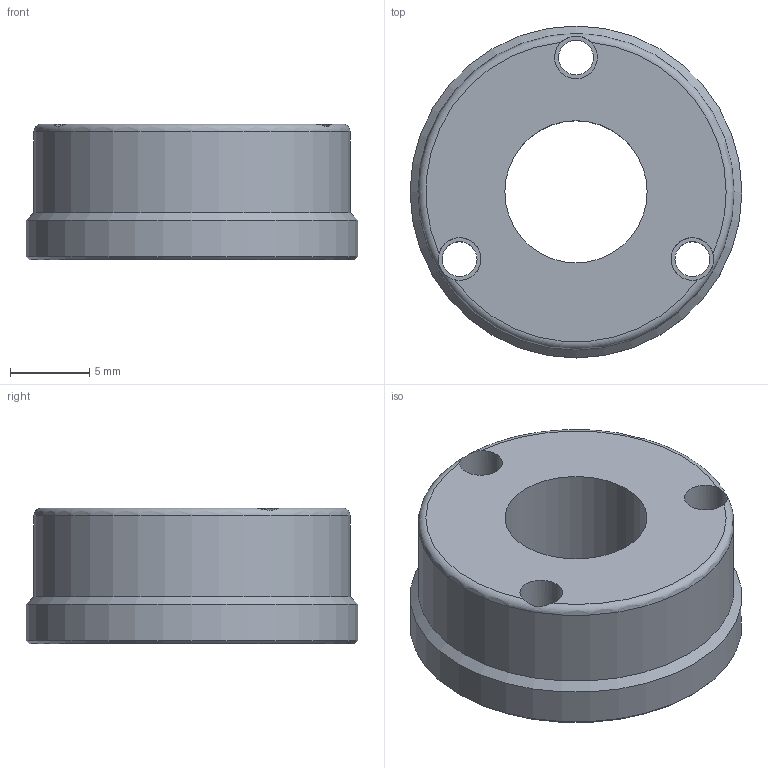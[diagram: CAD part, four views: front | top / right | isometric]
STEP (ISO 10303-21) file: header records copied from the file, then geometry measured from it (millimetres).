
FILE_DESCRIPTION(/* description */ (''),/* implementation_level */ '2;1');
FILE_NAME(/* name */ '23-1_flange_f.stp',/* time_stamp */ '2017-03-16T09:03:44+01:00',/* author */ ('DR. FRITZ FAULHABER GmbH & Co. KG'),/* organization */ ('DR. FRITZ FAULHABER GmbH & Co. KG'),/* preprocessor_version */ 'ST-DEVELOPER v16',/* originating_system */ 'SIEMENS PLM Software NX 10.0',/* authorisation */ '');
FILE_SCHEMA (('AUTOMOTIVE_DESIGN { 1 0 10303 214 3 1 1 1 }'));
Length unit declared in the file: millimetre
Products named in the file (1): F0200429010_A
Bounding box: 21 x 21 x 8.6 mm (x, y, z)
Volume: 2119.7 mm3; surface area: 1489.3 mm2
Topology: 1 solids, 1 shells, 17 faces, 43 edges, 28 vertices
Faces by surface type: cylinder 9, plane 5, cone 2, torus 1
Full cylindrical faces by diameter (mm): 2.2 x3, 2.7 x3, 9 x1, 20 x1, 21 x1
Entity records: 497 total; most frequent: CARTESIAN_POINT 119, DIRECTION 80, ORIENTED_EDGE 50, AXIS2_PLACEMENT_3D 40, FACE_BOUND 37, EDGE_LOOP 37, EDGE_CURVE 25, VERTEX_POINT 22
